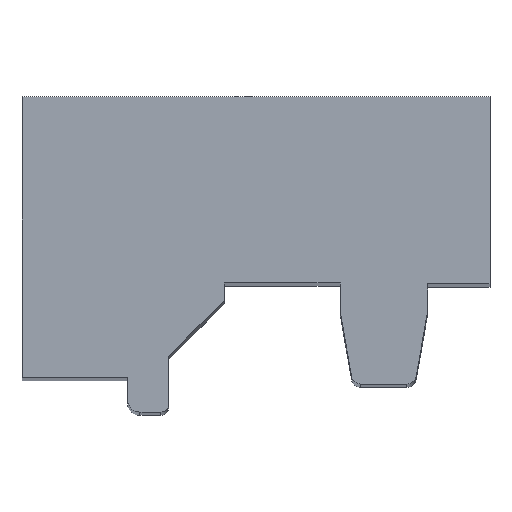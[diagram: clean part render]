
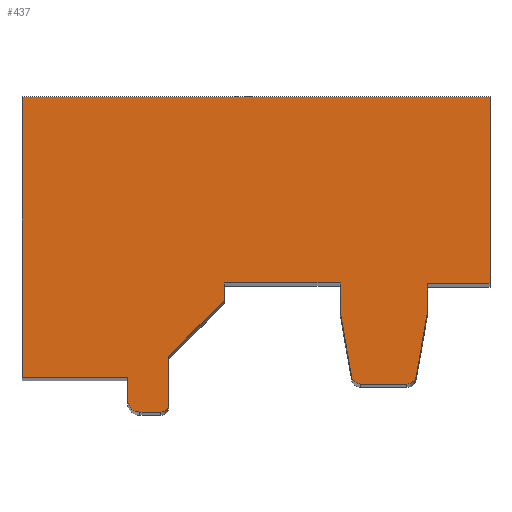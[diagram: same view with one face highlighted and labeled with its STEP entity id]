
A CAD part, top view. The second image highlights one B-rep face of the part: STEP entity #437.
In plain terms, the highlighted planar face has unit normal (0, 0, 1).
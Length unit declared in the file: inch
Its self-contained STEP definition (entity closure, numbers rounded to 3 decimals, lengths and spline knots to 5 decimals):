
#19=CIRCLE('',#456,0.03);
#21=CIRCLE('',#467,0.04);
#23=CIRCLE('',#471,0.025);
#25=CIRCLE('',#480,0.03);
#51=FACE_OUTER_BOUND('',#73,.T.);
#73=EDGE_LOOP('',(#359,#360,#361,#362,#363,#364,#365,#366,#367,#368,#369,
#370,#371,#372,#373,#374,#375,#376,#377,#378));
#75=LINE('',#608,#127);
#80=LINE('',#622,#132);
#83=LINE('',#628,#135);
#86=LINE('',#634,#138);
#89=LINE('',#640,#141);
#92=LINE('',#646,#144);
#95=LINE('',#652,#147);
#98=LINE('',#658,#150);
#101=LINE('',#664,#153);
#105=LINE('',#676,#157);
#109=LINE('',#688,#161);
#112=LINE('',#694,#164);
#115=LINE('',#700,#167);
#118=LINE('',#706,#170);
#121=LINE('',#712,#173);
#124=LINE('',#718,#176);
#127=VECTOR('',#491,0.3937);
#132=VECTOR('',#504,0.3937);
#135=VECTOR('',#509,0.3937);
#138=VECTOR('',#514,0.3937);
#141=VECTOR('',#519,0.3937);
#144=VECTOR('',#524,0.3937);
#147=VECTOR('',#529,0.3937);
#150=VECTOR('',#534,0.3937);
#153=VECTOR('',#539,0.3937);
#157=VECTOR('',#551,0.3937);
#161=VECTOR('',#563,0.3937);
#164=VECTOR('',#568,0.3937);
#167=VECTOR('',#573,0.3937);
#170=VECTOR('',#578,0.3937);
#173=VECTOR('',#583,0.3937);
#176=VECTOR('',#588,0.3937);
#179=VERTEX_POINT('',#606);
#180=VERTEX_POINT('',#607);
#183=VERTEX_POINT('',#615);
#185=VERTEX_POINT('',#621);
#187=VERTEX_POINT('',#627);
#189=VERTEX_POINT('',#633);
#191=VERTEX_POINT('',#639);
#193=VERTEX_POINT('',#645);
#195=VERTEX_POINT('',#651);
#197=VERTEX_POINT('',#657);
#199=VERTEX_POINT('',#663);
#201=VERTEX_POINT('',#669);
#203=VERTEX_POINT('',#675);
#205=VERTEX_POINT('',#681);
#207=VERTEX_POINT('',#687);
#209=VERTEX_POINT('',#693);
#211=VERTEX_POINT('',#699);
#213=VERTEX_POINT('',#705);
#215=VERTEX_POINT('',#711);
#217=VERTEX_POINT('',#717);
#219=EDGE_CURVE('',#179,#180,#75,.T.);
#223=EDGE_CURVE('',#180,#183,#19,.T.);
#226=EDGE_CURVE('',#183,#185,#80,.T.);
#229=EDGE_CURVE('',#185,#187,#83,.T.);
#232=EDGE_CURVE('',#187,#189,#86,.T.);
#235=EDGE_CURVE('',#189,#191,#89,.T.);
#238=EDGE_CURVE('',#191,#193,#92,.T.);
#241=EDGE_CURVE('',#193,#195,#95,.T.);
#244=EDGE_CURVE('',#195,#197,#98,.T.);
#247=EDGE_CURVE('',#197,#199,#101,.T.);
#250=EDGE_CURVE('',#199,#201,#21,.T.);
#253=EDGE_CURVE('',#201,#203,#105,.T.);
#256=EDGE_CURVE('',#203,#205,#23,.T.);
#259=EDGE_CURVE('',#205,#207,#109,.T.);
#262=EDGE_CURVE('',#207,#209,#112,.T.);
#265=EDGE_CURVE('',#209,#211,#115,.T.);
#268=EDGE_CURVE('',#211,#213,#118,.T.);
#271=EDGE_CURVE('',#213,#215,#121,.T.);
#274=EDGE_CURVE('',#217,#215,#124,.T.);
#277=EDGE_CURVE('',#217,#179,#25,.T.);
#359=ORIENTED_EDGE('',*,*,#277,.T.);
#360=ORIENTED_EDGE('',*,*,#219,.T.);
#361=ORIENTED_EDGE('',*,*,#223,.T.);
#362=ORIENTED_EDGE('',*,*,#226,.T.);
#363=ORIENTED_EDGE('',*,*,#229,.T.);
#364=ORIENTED_EDGE('',*,*,#232,.T.);
#365=ORIENTED_EDGE('',*,*,#235,.T.);
#366=ORIENTED_EDGE('',*,*,#238,.T.);
#367=ORIENTED_EDGE('',*,*,#241,.T.);
#368=ORIENTED_EDGE('',*,*,#244,.T.);
#369=ORIENTED_EDGE('',*,*,#247,.T.);
#370=ORIENTED_EDGE('',*,*,#250,.T.);
#371=ORIENTED_EDGE('',*,*,#253,.T.);
#372=ORIENTED_EDGE('',*,*,#256,.T.);
#373=ORIENTED_EDGE('',*,*,#259,.T.);
#374=ORIENTED_EDGE('',*,*,#262,.T.);
#375=ORIENTED_EDGE('',*,*,#265,.T.);
#376=ORIENTED_EDGE('',*,*,#268,.T.);
#377=ORIENTED_EDGE('',*,*,#271,.T.);
#378=ORIENTED_EDGE('',*,*,#274,.F.);
#415=PLANE('',#482);
#437=ADVANCED_FACE('',(#51),#415,.T.);
#456=AXIS2_PLACEMENT_3D('',#616,#497,#498);
#467=AXIS2_PLACEMENT_3D('',#670,#544,#545);
#471=AXIS2_PLACEMENT_3D('',#682,#556,#557);
#480=AXIS2_PLACEMENT_3D('',#723,#593,#594);
#482=AXIS2_PLACEMENT_3D('',#725,#597,#598);
#491=DIRECTION('',(1.,0.,0.));
#497=DIRECTION('center_axis',(0.,0.,1.));
#498=DIRECTION('ref_axis',(0.,-1.,0.));
#504=DIRECTION('',(0.174,0.985,0.));
#509=DIRECTION('',(0.,1.,0.));
#514=DIRECTION('',(1.,0.,0.));
#519=DIRECTION('',(0.,1.,0.));
#524=DIRECTION('',(-1.,0.,0.));
#529=DIRECTION('',(0.,-1.,0.));
#534=DIRECTION('',(1.,0.,0.));
#539=DIRECTION('',(0.,-1.,0.));
#544=DIRECTION('center_axis',(0.,0.,1.));
#545=DIRECTION('ref_axis',(-1.,0.,0.));
#551=DIRECTION('',(1.,0.,0.));
#556=DIRECTION('center_axis',(0.,0.,1.));
#557=DIRECTION('ref_axis',(0.,-1.,0.));
#563=DIRECTION('',(0.,1.,0.));
#568=DIRECTION('',(0.707,0.708,0.));
#573=DIRECTION('',(0.,1.,0.));
#578=DIRECTION('',(1.,0.,0.));
#583=DIRECTION('',(0.,-1.,0.));
#588=DIRECTION('',(-0.174,0.985,0.));
#593=DIRECTION('center_axis',(0.,0.,1.));
#594=DIRECTION('ref_axis',(-0.985,-0.174,0.));
#597=DIRECTION('center_axis',(0.,0.,1.));
#598=DIRECTION('ref_axis',(1.,0.,0.));
#606=CARTESIAN_POINT('',(0.29995,-1.476,0.));
#607=CARTESIAN_POINT('',(0.44799,-1.476,0.));
#608=CARTESIAN_POINT('',(0.29995,-1.476,0.));
#615=CARTESIAN_POINT('',(0.47754,-1.4512,0.));
#616=CARTESIAN_POINT('Origin',(0.44799,-1.446,0.));
#621=CARTESIAN_POINT('',(0.51407,-1.244,0.));
#622=CARTESIAN_POINT('',(0.47754,-1.4512,0.));
#627=CARTESIAN_POINT('',(0.51407,-1.155,0.));
#628=CARTESIAN_POINT('',(0.51407,-1.244,0.));
#633=CARTESIAN_POINT('',(0.71407,-1.155,0.));
#634=CARTESIAN_POINT('',(0.51407,-1.155,0.));
#639=CARTESIAN_POINT('',(0.71407,-0.555,0.));
#640=CARTESIAN_POINT('',(0.71407,-1.155,0.));
#645=CARTESIAN_POINT('',(-0.78593,-0.555,0.));
#646=CARTESIAN_POINT('',(0.71407,-0.555,0.));
#651=CARTESIAN_POINT('',(-0.78593,-1.455,0.));
#652=CARTESIAN_POINT('',(-0.78593,-0.555,0.));
#657=CARTESIAN_POINT('',(-0.44793,-1.455,0.));
#658=CARTESIAN_POINT('',(-0.78593,-1.455,0.));
#663=CARTESIAN_POINT('',(-0.44793,-1.526,0.));
#664=CARTESIAN_POINT('',(-0.44793,-1.455,0.));
#669=CARTESIAN_POINT('',(-0.40793,-1.566,0.));
#670=CARTESIAN_POINT('Origin',(-0.40793,-1.526,0.));
#675=CARTESIAN_POINT('',(-0.34093,-1.566,0.));
#676=CARTESIAN_POINT('',(-0.40793,-1.566,0.));
#681=CARTESIAN_POINT('',(-0.31593,-1.541,0.));
#682=CARTESIAN_POINT('Origin',(-0.34093,-1.541,0.));
#687=CARTESIAN_POINT('',(-0.31593,-1.38696,0.));
#688=CARTESIAN_POINT('',(-0.31593,-1.541,0.));
#693=CARTESIAN_POINT('',(-0.13764,-1.20837,0.));
#694=CARTESIAN_POINT('',(-0.31593,-1.38696,0.));
#699=CARTESIAN_POINT('',(-0.13764,-1.15226,0.));
#700=CARTESIAN_POINT('',(-0.13764,-1.20837,0.));
#705=CARTESIAN_POINT('',(0.23386,-1.15226,0.));
#706=CARTESIAN_POINT('',(-0.13764,-1.15226,0.));
#711=CARTESIAN_POINT('',(0.23386,-1.244,0.));
#712=CARTESIAN_POINT('',(0.23386,-1.15226,0.));
#717=CARTESIAN_POINT('',(0.2704,-1.4512,0.));
#718=CARTESIAN_POINT('',(0.2704,-1.4512,0.));
#723=CARTESIAN_POINT('Origin',(0.29995,-1.446,0.));
#725=CARTESIAN_POINT('Origin',(-0.03593,-1.0605,0.));
